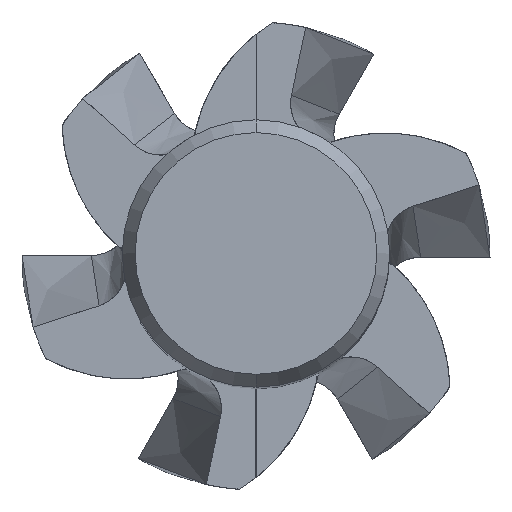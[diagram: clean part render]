
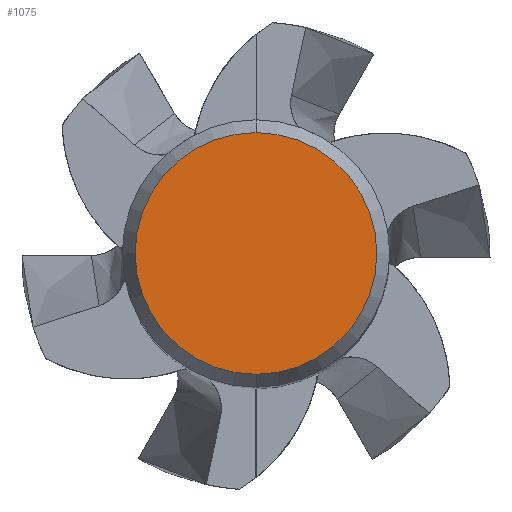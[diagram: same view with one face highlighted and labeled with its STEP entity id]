
A CAD part, top view. The second image highlights one B-rep face of the part: STEP entity #1075.
In plain terms, the highlighted planar face has unit normal (0, 0, 1).
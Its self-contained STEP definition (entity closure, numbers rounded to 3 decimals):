
#1001=EDGE_CURVE('',#1893,#1151,#2379,.T.);
#1075=ADVANCED_FACE('',(#2462),#2463,.T.);
#1137=EDGE_CURVE('',#1151,#1893,#2529,.T.);
#1151=VERTEX_POINT('',#2544);
#1893=VERTEX_POINT('',#3351);
#2379=CIRCLE('',#6028,5.423);
#2462=FACE_OUTER_BOUND('',#6854,.T.);
#2463=PLANE('',#6855);
#2529=CIRCLE('',#7451,5.423);
#2544=CARTESIAN_POINT('',(0.0,5.423,0.0));
#3351=CARTESIAN_POINT('',(0.,-5.423,0.0));
#6028=AXIS2_PLACEMENT_3D('',#14991,#14992,#14993);
#6854=EDGE_LOOP('',(#15090,#15091));
#6855=AXIS2_PLACEMENT_3D('',#15092,#15093,#15094);
#7451=AXIS2_PLACEMENT_3D('',#15130,#15131,#15132);
#14991=CARTESIAN_POINT('',(0.0,0.0,0.0));
#14992=DIRECTION('',(0.0,0.0,-1.0));
#14993=DIRECTION('',(0.0,1.0,0.0));
#15090=ORIENTED_EDGE('',*,*,#1137,.F.);
#15091=ORIENTED_EDGE('',*,*,#1001,.F.);
#15092=CARTESIAN_POINT('',(0.0,2.711,0.0));
#15093=DIRECTION('',(-0.0,0.0,1.0));
#15094=DIRECTION('',(0.0,-1.0,0.0));
#15130=CARTESIAN_POINT('',(0.0,0.0,0.0));
#15131=DIRECTION('',(0.0,0.0,-1.0));
#15132=DIRECTION('',(0.0,1.0,0.0));
